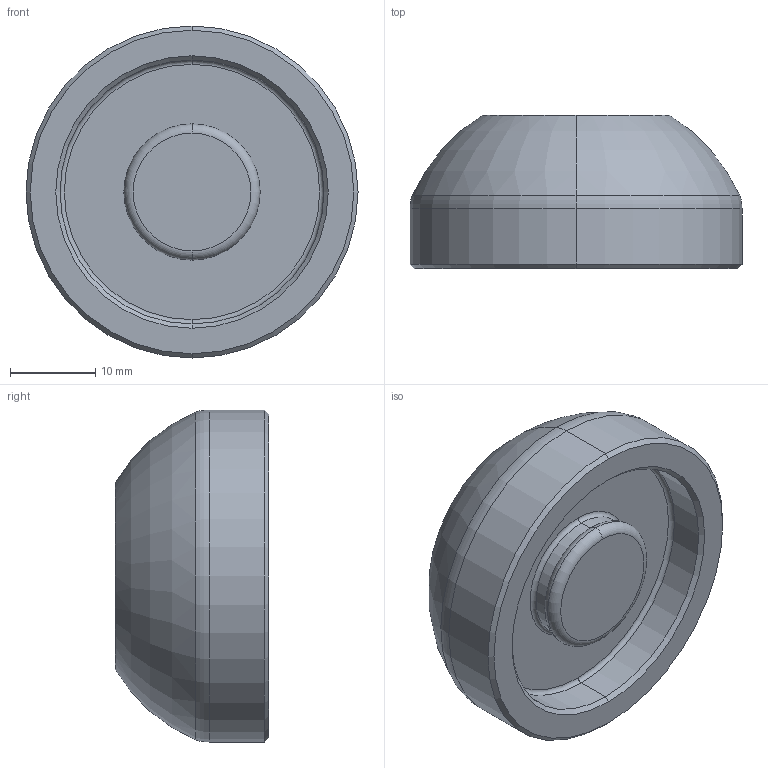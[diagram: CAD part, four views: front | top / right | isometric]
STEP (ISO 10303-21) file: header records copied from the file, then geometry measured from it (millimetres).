
FILE_DESCRIPTION(('STEP AP214'),'1');
FILE_NAME('C:/Program Files (x86)/Trace Software/PartsXML Tools/RobotPartsAuto/FATH/CAD/Temp/FATH_098D040E.stp','2016-05-30T14:08:40',('TraceParts'),('TraceParts S.A.'),'Spatial InterOp 3D',' ',' ');
FILE_SCHEMA(('automotive_design'));
Length unit declared in the file: millimetre
Products named in the file (1): Fase1
Bounding box: 39 x 18 x 39 mm (x, y, z)
Volume: 12575.1 mm3; surface area: 4891.6 mm2
Topology: 1 solids, 1 shells, 37 faces, 72 edges, 41 vertices
Faces by surface type: torus 14, cylinder 10, cone 6, plane 5, sphere 2
Entity records: 1275 total; most frequent: DIRECTION 204, CARTESIAN_POINT 151, ORIENTED_EDGE 144, AXIS2_PLACEMENT_3D 94, EDGE_CURVE 72, CIRCLE 56, EDGE_LOOP 41, VERTEX_POINT 41
